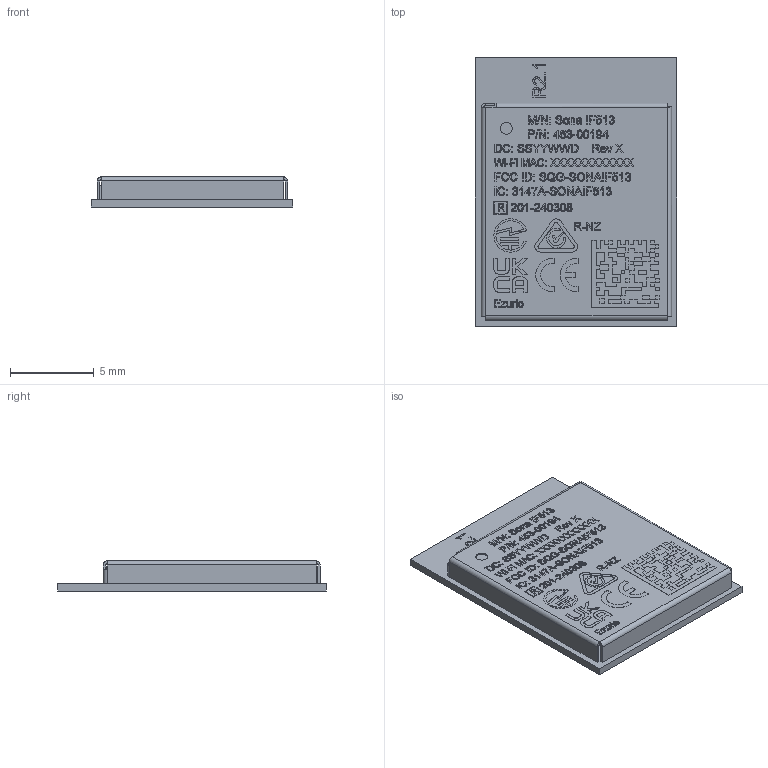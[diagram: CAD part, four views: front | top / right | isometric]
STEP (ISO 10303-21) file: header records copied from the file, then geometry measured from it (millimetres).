
FILE_DESCRIPTION (( 'STEP AP214' ), '1' );
FILE_NAME ('453-00194.STEP', '2026-05-25T09:50:12', ( '' ), ( '' ), 'SwSTEP 2.0', 'SolidWorks 2025', '' );
FILE_SCHEMA (( 'AUTOMOTIVE_DESIGN' ));
Length unit declared in the file: millimetre
Products named in the file (4): 110-00826_453-00194; 750-03415-11103401_940-00329, Diversity, Trace Pin; 940-00329_Laser; 453-00194
Assembly tree (3 placements, depth 3):
  453-00194
    940-00329_Laser
      750-03415-11103401_940-00329, Diversity, Trace Pin
      110-00826_453-00194
Bounding box: 12 x 16 x 1.82 mm (x, y, z)
Volume: 133.5 mm3; surface area: 1146.9 mm2
Topology: 315 solids, 315 shells, 4924 faces, 11799 edges, 7602 vertices
Faces by surface type: plane 3587, bspline 726, cylinder 475, sphere 136
Entity records: 228621 total; most frequent: CARTESIAN_POINT 63439, ORIENTED_EDGE 23326, DIRECTION 19591, EDGE_CURVE 11663, VECTOR 9281, LINE 9281, VERTEX_POINT 7602, EDGE_LOOP 5157
